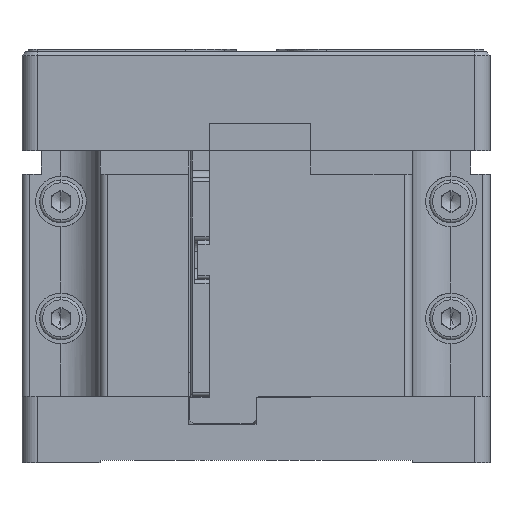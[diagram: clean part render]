
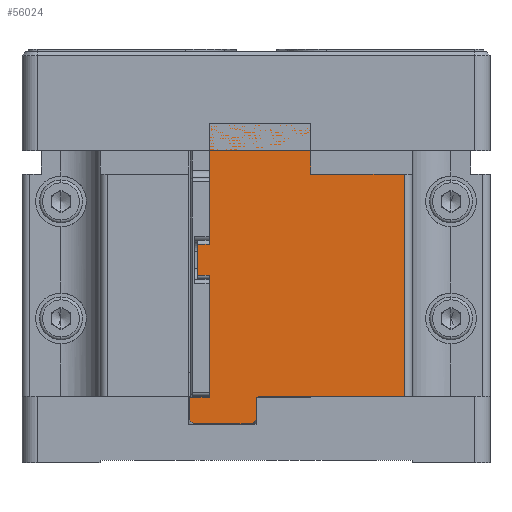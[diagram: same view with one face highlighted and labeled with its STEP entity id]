
A CAD part, front view. The second image highlights one B-rep face of the part: STEP entity #56024.
In plain terms, the highlighted planar face has unit normal (0, -1, 0).
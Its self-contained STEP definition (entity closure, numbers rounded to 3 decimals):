
#623 = ORIENTED_EDGE ( 'NONE', *, *, #29140, .F. ) ;
#1195 = EDGE_CURVE ( 'NONE', #23002, #70160, #58456, .T. ) ;
#2424 = ORIENTED_EDGE ( 'NONE', *, *, #1195, .F. ) ;
#2898 = VERTEX_POINT ( 'NONE', #69327 ) ;
#3759 = DIRECTION ( 'NONE',  ( 0., 0., 1. ) ) ;
#4641 = ORIENTED_EDGE ( 'NONE', *, *, #43381, .T. ) ;
#4676 = LINE ( 'NONE', #26907, #29741 ) ;
#4867 = LINE ( 'NONE', #26398, #38324 ) ;
#5469 = CARTESIAN_POINT ( 'NONE',  ( 7., -30., -0.1 ) ) ;
#6297 = DIRECTION ( 'NONE',  ( 0., 0., 1. ) ) ;
#6647 = VECTOR ( 'NONE', #18070, 1000. ) ;
#7443 = DIRECTION ( 'NONE',  ( 0., 0., -1. ) ) ;
#7491 = DIRECTION ( 'NONE',  ( 1., 0., 0. ) ) ;
#7818 = CARTESIAN_POINT ( 'NONE',  ( -6., -30., 15.5 ) ) ;
#8628 = EDGE_CURVE ( 'NONE', #23690, #70510, #68799, .T. ) ;
#9261 = CARTESIAN_POINT ( 'NONE',  ( -7.5, -30., 19.5 ) ) ;
#9297 = LINE ( 'NONE', #65117, #32118 ) ;
#10498 = DIRECTION ( 'NONE',  ( -1., 0., 0. ) ) ;
#10759 = CARTESIAN_POINT ( 'NONE',  ( -8., -30., -3.5 ) ) ;
#10939 = LINE ( 'NONE', #17516, #11220 ) ;
#11038 = CARTESIAN_POINT ( 'NONE',  ( 7., -30., 35. ) ) ;
#11220 = VECTOR ( 'NONE', #66753, 1000. ) ;
#11628 = CARTESIAN_POINT ( 'NONE',  ( -6., -30., -0.1 ) ) ;
#13244 = DIRECTION ( 'NONE',  ( 0., 0., 1. ) ) ;
#14089 = VECTOR ( 'NONE', #52015, 1000. ) ;
#14648 = VERTEX_POINT ( 'NONE', #71742 ) ;
#14768 = VECTOR ( 'NONE', #7491, 1000. ) ;
#15223 = LINE ( 'NONE', #22126, #39213 ) ;
#15970 = LINE ( 'NONE', #66986, #53317 ) ;
#16379 = ORIENTED_EDGE ( 'NONE', *, *, #49239, .T. ) ;
#16899 = ORIENTED_EDGE ( 'NONE', *, *, #45634, .T. ) ;
#17032 = VERTEX_POINT ( 'NONE', #44232 ) ;
#17516 = CARTESIAN_POINT ( 'NONE',  ( -7.5, -30., 15.5 ) ) ;
#18070 = DIRECTION ( 'NONE',  ( 0.707, 0., -0.707 ) ) ;
#18308 = EDGE_CURVE ( 'NONE', #38322, #45240, #57077, .T. ) ;
#18677 = ORIENTED_EDGE ( 'NONE', *, *, #8628, .T. ) ;
#19193 = CARTESIAN_POINT ( 'NONE',  ( -0.5, -30., -3.5 ) ) ;
#19878 = EDGE_CURVE ( 'NONE', #14648, #23690, #63202, .T. ) ;
#20077 = ORIENTED_EDGE ( 'NONE', *, *, #63319, .T. ) ;
#20185 = LINE ( 'NONE', #59229, #60789 ) ;
#20451 = CARTESIAN_POINT ( 'NONE',  ( -0.5, -30., -3.5 ) ) ;
#20709 = DIRECTION ( 'NONE',  ( -1., 0., 0. ) ) ;
#20934 = EDGE_CURVE ( 'NONE', #42253, #50530, #15223, .T. ) ;
#21264 = CARTESIAN_POINT ( 'NONE',  ( -6., -30., -3.5 ) ) ;
#21267 = EDGE_CURVE ( 'NONE', #45240, #70160, #9297, .T. ) ;
#21628 = FACE_OUTER_BOUND ( 'NONE', #57333, .T. ) ;
#21706 = VERTEX_POINT ( 'NONE', #26960 ) ;
#22084 = ORIENTED_EDGE ( 'NONE', *, *, #18308, .T. ) ;
#22126 = CARTESIAN_POINT ( 'NONE',  ( -0.5, -30., -3.5 ) ) ;
#22424 = VECTOR ( 'NONE', #6297, 1000. ) ;
#22724 = CARTESIAN_POINT ( 'NONE',  ( 7., -30., -0.1 ) ) ;
#23002 = VERTEX_POINT ( 'NONE', #46374 ) ;
#23690 = VERTEX_POINT ( 'NONE', #50925 ) ;
#23908 = DIRECTION ( 'NONE',  ( -1., 0., 0. ) ) ;
#24163 = VECTOR ( 'NONE', #44936, 1000. ) ;
#24309 = LINE ( 'NONE', #19193, #59387 ) ;
#24997 = CARTESIAN_POINT ( 'NONE',  ( -6., -30., 19.5 ) ) ;
#26090 = VERTEX_POINT ( 'NONE', #24997 ) ;
#26398 = CARTESIAN_POINT ( 'NONE',  ( -7.5, -30., 19.5 ) ) ;
#26613 = EDGE_CURVE ( 'NONE', #54190, #2898, #20185, .T. ) ;
#26907 = CARTESIAN_POINT ( 'NONE',  ( 7., -30., 35. ) ) ;
#26960 = CARTESIAN_POINT ( 'NONE',  ( -6., -30., 35. ) ) ;
#27567 = VERTEX_POINT ( 'NONE', #43363 ) ;
#28855 = CARTESIAN_POINT ( 'NONE',  ( -8.5, -30., -0.1 ) ) ;
#29029 = LINE ( 'NONE', #56040, #46976 ) ;
#29140 = EDGE_CURVE ( 'NONE', #39018, #70510, #39965, .T. ) ;
#29741 = VECTOR ( 'NONE', #10498, 1000. ) ;
#32118 = VECTOR ( 'NONE', #60705, 1000. ) ;
#32898 = ORIENTED_EDGE ( 'NONE', *, *, #53150, .F. ) ;
#33218 = VECTOR ( 'NONE', #66735, 1000. ) ;
#33869 = CARTESIAN_POINT ( 'NONE',  ( 19., -30., 0. ) ) ;
#33884 = VECTOR ( 'NONE', #13244, 1000. ) ;
#35172 = CARTESIAN_POINT ( 'NONE',  ( -8.5, -30., -3. ) ) ;
#35228 = ORIENTED_EDGE ( 'NONE', *, *, #58781, .T. ) ;
#35490 = VERTEX_POINT ( 'NONE', #11038 ) ;
#36699 = EDGE_CURVE ( 'NONE', #23002, #50530, #51989, .T. ) ;
#37343 = ORIENTED_EDGE ( 'NONE', *, *, #36699, .T. ) ;
#38322 = VERTEX_POINT ( 'NONE', #54093 ) ;
#38324 = VECTOR ( 'NONE', #48644, 1000. ) ;
#39018 = VERTEX_POINT ( 'NONE', #66667 ) ;
#39035 = ORIENTED_EDGE ( 'NONE', *, *, #19878, .T. ) ;
#39213 = VECTOR ( 'NONE', #20709, 1000. ) ;
#39965 = LINE ( 'NONE', #63317, #14089 ) ;
#42253 = VERTEX_POINT ( 'NONE', #20451 ) ;
#43363 = CARTESIAN_POINT ( 'NONE',  ( 7., -30., 28.5 ) ) ;
#43381 = EDGE_CURVE ( 'NONE', #17032, #38322, #10939, .T. ) ;
#43614 = EDGE_CURVE ( 'NONE', #35490, #21706, #4676, .T. ) ;
#43877 = DIRECTION ( 'NONE',  ( 0., -1., 0. ) ) ;
#44232 = CARTESIAN_POINT ( 'NONE',  ( -7.5, -30., 15.5 ) ) ;
#44450 = EDGE_CURVE ( 'NONE', #56221, #17032, #69846, .T. ) ;
#44936 = DIRECTION ( 'NONE',  ( 0., 0., -1. ) ) ;
#45240 = VERTEX_POINT ( 'NONE', #11628 ) ;
#45330 = LINE ( 'NONE', #22724, #22424 ) ;
#45634 = EDGE_CURVE ( 'NONE', #39018, #27567, #15970, .T. ) ;
#46161 = CARTESIAN_POINT ( 'NONE',  ( 0., -30., 0. ) ) ;
#46374 = CARTESIAN_POINT ( 'NONE',  ( -8.5, -30., -3. ) ) ;
#46976 = VECTOR ( 'NONE', #23908, 1000. ) ;
#47993 = ORIENTED_EDGE ( 'NONE', *, *, #62111, .F. ) ;
#48172 = ORIENTED_EDGE ( 'NONE', *, *, #20934, .F. ) ;
#48391 = ORIENTED_EDGE ( 'NONE', *, *, #44450, .T. ) ;
#48644 = DIRECTION ( 'NONE',  ( 1., 0., 0. ) ) ;
#48719 = ORIENTED_EDGE ( 'NONE', *, *, #21267, .T. ) ;
#49239 = EDGE_CURVE ( 'NONE', #42253, #54190, #24309, .T. ) ;
#50530 = VERTEX_POINT ( 'NONE', #10759 ) ;
#50925 = CARTESIAN_POINT ( 'NONE',  ( 7., -30., 0. ) ) ;
#51500 = CARTESIAN_POINT ( 'NONE',  ( -6., -30., 28.5 ) ) ;
#51711 = VECTOR ( 'NONE', #7443, 1000. ) ;
#51989 = LINE ( 'NONE', #35172, #6647 ) ;
#52015 = DIRECTION ( 'NONE',  ( 0., 0., -1. ) ) ;
#53150 = EDGE_CURVE ( 'NONE', #14648, #2898, #29029, .T. ) ;
#53317 = VECTOR ( 'NONE', #54970, 1000. ) ;
#54093 = CARTESIAN_POINT ( 'NONE',  ( -6., -30., 15.5 ) ) ;
#54190 = VERTEX_POINT ( 'NONE', #55333 ) ;
#54970 = DIRECTION ( 'NONE',  ( -1., 0., 0. ) ) ;
#55176 = DIRECTION ( 'NONE',  ( 0., 0., 1. ) ) ;
#55333 = CARTESIAN_POINT ( 'NONE',  ( 0., -30., -3. ) ) ;
#56024 = ADVANCED_FACE ( 'NONE', ( #21628 ), #66491, .T. ) ;
#56040 = CARTESIAN_POINT ( 'NONE',  ( 7., -30., -0.1 ) ) ;
#56221 = VERTEX_POINT ( 'NONE', #69714 ) ;
#57077 = LINE ( 'NONE', #7818, #51711 ) ;
#57333 = EDGE_LOOP ( 'NONE', ( #16899, #20077, #61469, #35228, #47993, #48391, #4641, #22084, #48719, #2424, #37343, #48172, #16379, #58832, #32898, #39035, #18677, #623 ) ) ;
#58456 = LINE ( 'NONE', #68700, #33884 ) ;
#58781 = EDGE_CURVE ( 'NONE', #21706, #26090, #67204, .T. ) ;
#58832 = ORIENTED_EDGE ( 'NONE', *, *, #26613, .T. ) ;
#59229 = CARTESIAN_POINT ( 'NONE',  ( 0., -30., -3. ) ) ;
#59387 = VECTOR ( 'NONE', #69557, 1000. ) ;
#59948 = DIRECTION ( 'NONE',  ( 0., 0., -1. ) ) ;
#60705 = DIRECTION ( 'NONE',  ( -1., 0., 0. ) ) ;
#60789 = VECTOR ( 'NONE', #3759, 1000. ) ;
#61325 = VECTOR ( 'NONE', #59948, 1000. ) ;
#61469 = ORIENTED_EDGE ( 'NONE', *, *, #43614, .T. ) ;
#62111 = EDGE_CURVE ( 'NONE', #56221, #26090, #4867, .T. ) ;
#63202 = LINE ( 'NONE', #5469, #33218 ) ;
#63317 = CARTESIAN_POINT ( 'NONE',  ( 19., -30., 28.5 ) ) ;
#63319 = EDGE_CURVE ( 'NONE', #27567, #35490, #45330, .T. ) ;
#64583 = AXIS2_PLACEMENT_3D ( 'NONE', #21264, #43877, #55176 ) ;
#65117 = CARTESIAN_POINT ( 'NONE',  ( -6., -30., -0.1 ) ) ;
#66491 = PLANE ( 'NONE',  #64583 ) ;
#66667 = CARTESIAN_POINT ( 'NONE',  ( 19., -30., 28.5 ) ) ;
#66735 = DIRECTION ( 'NONE',  ( 0., 0., 1. ) ) ;
#66753 = DIRECTION ( 'NONE',  ( 1., 0., 0. ) ) ;
#66986 = CARTESIAN_POINT ( 'NONE',  ( 19., -30., 28.5 ) ) ;
#67204 = LINE ( 'NONE', #51500, #24163 ) ;
#68700 = CARTESIAN_POINT ( 'NONE',  ( -8.5, -30., -3. ) ) ;
#68799 = LINE ( 'NONE', #46161, #14768 ) ;
#69327 = CARTESIAN_POINT ( 'NONE',  ( 0., -30., -0.1 ) ) ;
#69557 = DIRECTION ( 'NONE',  ( 0.707, 0., 0.707 ) ) ;
#69714 = CARTESIAN_POINT ( 'NONE',  ( -7.5, -30., 19.5 ) ) ;
#69846 = LINE ( 'NONE', #9261, #61325 ) ;
#70160 = VERTEX_POINT ( 'NONE', #28855 ) ;
#70510 = VERTEX_POINT ( 'NONE', #33869 ) ;
#71742 = CARTESIAN_POINT ( 'NONE',  ( 7., -30., -0.1 ) ) ;
